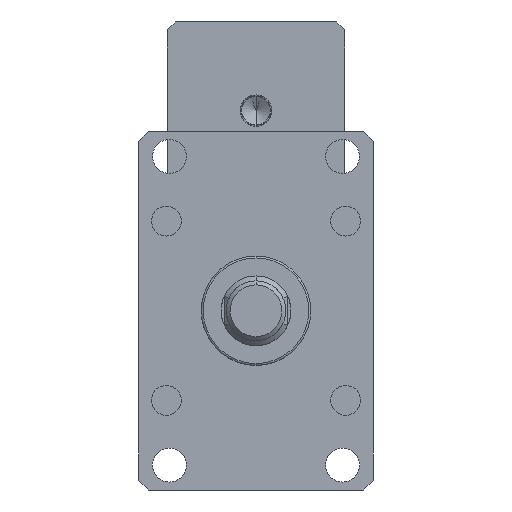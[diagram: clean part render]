
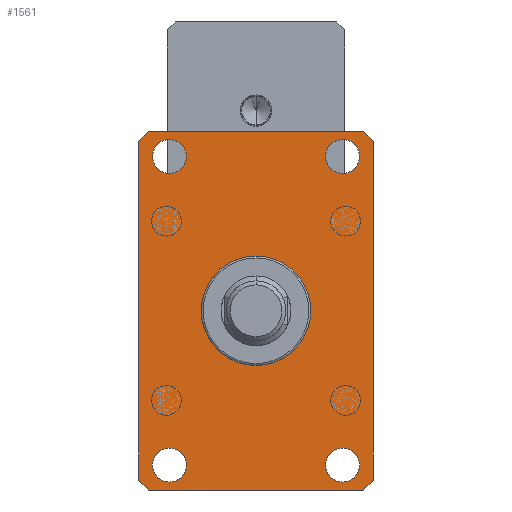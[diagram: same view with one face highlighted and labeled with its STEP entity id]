
A CAD part, front view. The second image highlights one B-rep face of the part: STEP entity #1561.
In plain terms, the highlighted planar face has unit normal (0, -1, 0).
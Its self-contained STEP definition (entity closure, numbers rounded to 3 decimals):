
#39 = AXIS2_PLACEMENT_3D ( 'NONE', #9534, #1767, #830 ) ;
#169 = FACE_BOUND ( 'NONE', #10722, .T. ) ;
#198 = EDGE_CURVE ( 'NONE', #8137, #4823, #9317, .T. ) ;
#201 = CARTESIAN_POINT ( 'NONE',  ( 43.5, -55., -69. ) ) ;
#222 = CARTESIAN_POINT ( 'NONE',  ( -54., -55., -90. ) ) ;
#262 = EDGE_CURVE ( 'NONE', #5295, #9958, #6166, .T. ) ;
#281 = EDGE_LOOP ( 'NONE', ( #1738, #7964, #1205, #5016, #10930, #3588, #3271, #3033 ) ) ;
#350 = LINE ( 'NONE', #3934, #8115 ) ;
#356 = AXIS2_PLACEMENT_3D ( 'NONE', #9772, #5245, #7200 ) ;
#369 = CARTESIAN_POINT ( 'NONE',  ( 43.5, -55., -86. ) ) ;
#385 = EDGE_LOOP ( 'NONE', ( #6505, #9031 ) ) ;
#386 = VECTOR ( 'NONE', #4145, 1000. ) ;
#393 = ORIENTED_EDGE ( 'NONE', *, *, #10235, .F. ) ;
#413 = EDGE_CURVE ( 'NONE', #11345, #6096, #2318, .T. ) ;
#447 = CARTESIAN_POINT ( 'NONE',  ( -54., -55., -90. ) ) ;
#512 = CARTESIAN_POINT ( 'NONE',  ( 43.5, -55., -77.5 ) ) ;
#627 = CIRCLE ( 'NONE', #10223, 8.5 ) ;
#647 = EDGE_CURVE ( 'NONE', #11197, #7903, #11861, .T. ) ;
#830 = DIRECTION ( 'NONE',  ( 0., 0., 1. ) ) ;
#852 = AXIS2_PLACEMENT_3D ( 'NONE', #2984, #9780, #3962 ) ;
#1042 = VERTEX_POINT ( 'NONE', #8490 ) ;
#1205 = ORIENTED_EDGE ( 'NONE', *, *, #9944, .T. ) ;
#1297 = CARTESIAN_POINT ( 'NONE',  ( 59., -55., -85. ) ) ;
#1305 = EDGE_LOOP ( 'NONE', ( #3274, #4342 ) ) ;
#1456 = CARTESIAN_POINT ( 'NONE',  ( -54., -55., 90. ) ) ;
#1561 = ADVANCED_FACE ( 'NONE', ( #169, #2440, #10184, #5060, #7641 ), #11462, .F. ) ;
#1645 = CARTESIAN_POINT ( 'NONE',  ( -59., -55., -85. ) ) ;
#1738 = ORIENTED_EDGE ( 'NONE', *, *, #413, .T. ) ;
#1764 = VECTOR ( 'NONE', #3401, 1000. ) ;
#1767 = DIRECTION ( 'NONE',  ( 0., 1., 0. ) ) ;
#1936 = VERTEX_POINT ( 'NONE', #9320 ) ;
#2029 = VECTOR ( 'NONE', #10356, 1000. ) ;
#2152 = AXIS2_PLACEMENT_3D ( 'NONE', #4095, #10861, #5091 ) ;
#2299 = DIRECTION ( 'NONE',  ( 0., 0., 1. ) ) ;
#2318 = LINE ( 'NONE', #1456, #2029 ) ;
#2328 = EDGE_LOOP ( 'NONE', ( #6519, #393 ) ) ;
#2431 = CARTESIAN_POINT ( 'NONE',  ( 43.5, -55., 86. ) ) ;
#2440 = FACE_BOUND ( 'NONE', #1305, .T. ) ;
#2649 = CARTESIAN_POINT ( 'NONE',  ( 43.5, -55., 77.5 ) ) ;
#2655 = VECTOR ( 'NONE', #11145, 1000. ) ;
#2680 = ORIENTED_EDGE ( 'NONE', *, *, #2822, .F. ) ;
#2822 = EDGE_CURVE ( 'NONE', #7903, #11197, #8857, .T. ) ;
#2984 = CARTESIAN_POINT ( 'NONE',  ( -43.5, -55., -77.5 ) ) ;
#3033 = ORIENTED_EDGE ( 'NONE', *, *, #8898, .T. ) ;
#3266 = LINE ( 'NONE', #9028, #386 ) ;
#3271 = ORIENTED_EDGE ( 'NONE', *, *, #10569, .T. ) ;
#3274 = ORIENTED_EDGE ( 'NONE', *, *, #11042, .T. ) ;
#3401 = DIRECTION ( 'NONE',  ( 0.707, 0., -0.707 ) ) ;
#3407 = CIRCLE ( 'NONE', #8980, 8.5 ) ;
#3588 = ORIENTED_EDGE ( 'NONE', *, *, #9140, .T. ) ;
#3622 = DIRECTION ( 'NONE',  ( 0., 0., -1. ) ) ;
#3727 = CARTESIAN_POINT ( 'NONE',  ( 43.5, -55., 77.5 ) ) ;
#3728 = EDGE_CURVE ( 'NONE', #10100, #1936, #627, .T. ) ;
#3778 = DIRECTION ( 'NONE',  ( -0.707, 0., -0.707 ) ) ;
#3934 = CARTESIAN_POINT ( 'NONE',  ( 54., -55., 90. ) ) ;
#3962 = DIRECTION ( 'NONE',  ( 0., 0., 1. ) ) ;
#4022 = LINE ( 'NONE', #9611, #6952 ) ;
#4031 = CARTESIAN_POINT ( 'NONE',  ( -43.5, -55., -77.5 ) ) ;
#4095 = CARTESIAN_POINT ( 'NONE',  ( 43.5, -55., -77.5 ) ) ;
#4134 = DIRECTION ( 'NONE',  ( 0., 1., 0. ) ) ;
#4145 = DIRECTION ( 'NONE',  ( 0., 0., -1. ) ) ;
#4342 = ORIENTED_EDGE ( 'NONE', *, *, #198, .T. ) ;
#4398 = CARTESIAN_POINT ( 'NONE',  ( -59., -55., -85. ) ) ;
#4513 = LINE ( 'NONE', #1297, #9372 ) ;
#4823 = VERTEX_POINT ( 'NONE', #201 ) ;
#5016 = ORIENTED_EDGE ( 'NONE', *, *, #10095, .T. ) ;
#5033 = DIRECTION ( 'NONE',  ( 0., 0., 1. ) ) ;
#5060 = FACE_OUTER_BOUND ( 'NONE', #281, .T. ) ;
#5087 = CARTESIAN_POINT ( 'NONE',  ( 59., -55., -85. ) ) ;
#5091 = DIRECTION ( 'NONE',  ( 0., 0., 1. ) ) ;
#5186 = DIRECTION ( 'NONE',  ( 0.707, 0., 0.707 ) ) ;
#5188 = DIRECTION ( 'NONE',  ( 0., -1., 0. ) ) ;
#5190 = CARTESIAN_POINT ( 'NONE',  ( 54., -55., -90. ) ) ;
#5245 = DIRECTION ( 'NONE',  ( 0., -1., 0. ) ) ;
#5264 = LINE ( 'NONE', #11102, #2655 ) ;
#5295 = VERTEX_POINT ( 'NONE', #222 ) ;
#5332 = VERTEX_POINT ( 'NONE', #5087 ) ;
#5787 = DIRECTION ( 'NONE',  ( 0., 0., -1. ) ) ;
#5862 = VECTOR ( 'NONE', #11991, 1000. ) ;
#6096 = VERTEX_POINT ( 'NONE', #9067 ) ;
#6166 = LINE ( 'NONE', #447, #5862 ) ;
#6505 = ORIENTED_EDGE ( 'NONE', *, *, #10965, .T. ) ;
#6519 = ORIENTED_EDGE ( 'NONE', *, *, #3728, .F. ) ;
#6649 = VERTEX_POINT ( 'NONE', #10552 ) ;
#6880 = CARTESIAN_POINT ( 'NONE',  ( -43.5, -55., 86. ) ) ;
#6907 = AXIS2_PLACEMENT_3D ( 'NONE', #4031, #10803, #5033 ) ;
#6952 = VECTOR ( 'NONE', #3778, 1000. ) ;
#7104 = VERTEX_POINT ( 'NONE', #11146 ) ;
#7200 = DIRECTION ( 'NONE',  ( 0., 0., -1. ) ) ;
#7383 = CIRCLE ( 'NONE', #2152, 8.5 ) ;
#7641 = FACE_BOUND ( 'NONE', #2328, .T. ) ;
#7903 = VERTEX_POINT ( 'NONE', #6880 ) ;
#7964 = ORIENTED_EDGE ( 'NONE', *, *, #10658, .T. ) ;
#8087 = AXIS2_PLACEMENT_3D ( 'NONE', #512, #4134, #2299 ) ;
#8115 = VECTOR ( 'NONE', #10707, 1000. ) ;
#8137 = VERTEX_POINT ( 'NONE', #369 ) ;
#8490 = CARTESIAN_POINT ( 'NONE',  ( -43.5, -55., -69. ) ) ;
#8610 = AXIS2_PLACEMENT_3D ( 'NONE', #10947, #5188, #11925 ) ;
#8857 = CIRCLE ( 'NONE', #8610, 8.5 ) ;
#8898 = EDGE_CURVE ( 'NONE', #7104, #11345, #350, .T. ) ;
#8980 = AXIS2_PLACEMENT_3D ( 'NONE', #2649, #9446, #3622 ) ;
#9028 = CARTESIAN_POINT ( 'NONE',  ( -59., -55., 85. ) ) ;
#9031 = ORIENTED_EDGE ( 'NONE', *, *, #11558, .T. ) ;
#9067 = CARTESIAN_POINT ( 'NONE',  ( -54., -55., 90. ) ) ;
#9140 = EDGE_CURVE ( 'NONE', #9958, #5332, #4513, .T. ) ;
#9317 = CIRCLE ( 'NONE', #8087, 8.5 ) ;
#9320 = CARTESIAN_POINT ( 'NONE',  ( 43.5, -55., 69. ) ) ;
#9372 = VECTOR ( 'NONE', #5186, 1000. ) ;
#9446 = DIRECTION ( 'NONE',  ( 0., -1., 0. ) ) ;
#9534 = CARTESIAN_POINT ( 'NONE',  ( 59., -55., 90. ) ) ;
#9611 = CARTESIAN_POINT ( 'NONE',  ( -59., -55., 85. ) ) ;
#9772 = CARTESIAN_POINT ( 'NONE',  ( -43.5, -55., 77.5 ) ) ;
#9780 = DIRECTION ( 'NONE',  ( 0., 1., 0. ) ) ;
#9944 = EDGE_CURVE ( 'NONE', #6649, #12549, #3266, .T. ) ;
#9958 = VERTEX_POINT ( 'NONE', #5190 ) ;
#10095 = EDGE_CURVE ( 'NONE', #12549, #5295, #12040, .T. ) ;
#10100 = VERTEX_POINT ( 'NONE', #2431 ) ;
#10184 = FACE_BOUND ( 'NONE', #385, .T. ) ;
#10223 = AXIS2_PLACEMENT_3D ( 'NONE', #3727, #11543, #5787 ) ;
#10235 = EDGE_CURVE ( 'NONE', #1936, #10100, #3407, .T. ) ;
#10356 = DIRECTION ( 'NONE',  ( -1., 0., 0. ) ) ;
#10552 = CARTESIAN_POINT ( 'NONE',  ( -59., -55., 85. ) ) ;
#10569 = EDGE_CURVE ( 'NONE', #5332, #7104, #5264, .T. ) ;
#10658 = EDGE_CURVE ( 'NONE', #6096, #6649, #4022, .T. ) ;
#10707 = DIRECTION ( 'NONE',  ( -0.707, 0., 0.707 ) ) ;
#10722 = EDGE_LOOP ( 'NONE', ( #2680, #12419 ) ) ;
#10803 = DIRECTION ( 'NONE',  ( 0., 1., 0. ) ) ;
#10861 = DIRECTION ( 'NONE',  ( 0., 1., 0. ) ) ;
#10930 = ORIENTED_EDGE ( 'NONE', *, *, #262, .T. ) ;
#10947 = CARTESIAN_POINT ( 'NONE',  ( -43.5, -55., 77.5 ) ) ;
#10965 = EDGE_CURVE ( 'NONE', #1042, #11448, #11881, .T. ) ;
#11042 = EDGE_CURVE ( 'NONE', #4823, #8137, #7383, .T. ) ;
#11102 = CARTESIAN_POINT ( 'NONE',  ( 59., -55., 85. ) ) ;
#11145 = DIRECTION ( 'NONE',  ( 0., 0., 1. ) ) ;
#11146 = CARTESIAN_POINT ( 'NONE',  ( 59., -55., 85. ) ) ;
#11197 = VERTEX_POINT ( 'NONE', #12108 ) ;
#11319 = CARTESIAN_POINT ( 'NONE',  ( 54., -55., 90. ) ) ;
#11345 = VERTEX_POINT ( 'NONE', #11319 ) ;
#11448 = VERTEX_POINT ( 'NONE', #11575 ) ;
#11462 = PLANE ( 'NONE',  #39 ) ;
#11543 = DIRECTION ( 'NONE',  ( 0., -1., 0. ) ) ;
#11558 = EDGE_CURVE ( 'NONE', #11448, #1042, #11872, .T. ) ;
#11575 = CARTESIAN_POINT ( 'NONE',  ( -43.5, -55., -86. ) ) ;
#11861 = CIRCLE ( 'NONE', #356, 8.5 ) ;
#11872 = CIRCLE ( 'NONE', #6907, 8.5 ) ;
#11881 = CIRCLE ( 'NONE', #852, 8.5 ) ;
#11925 = DIRECTION ( 'NONE',  ( 0., 0., -1. ) ) ;
#11991 = DIRECTION ( 'NONE',  ( 1., 0., 0. ) ) ;
#12040 = LINE ( 'NONE', #4398, #1764 ) ;
#12108 = CARTESIAN_POINT ( 'NONE',  ( -43.5, -55., 69. ) ) ;
#12419 = ORIENTED_EDGE ( 'NONE', *, *, #647, .F. ) ;
#12549 = VERTEX_POINT ( 'NONE', #1645 ) ;
